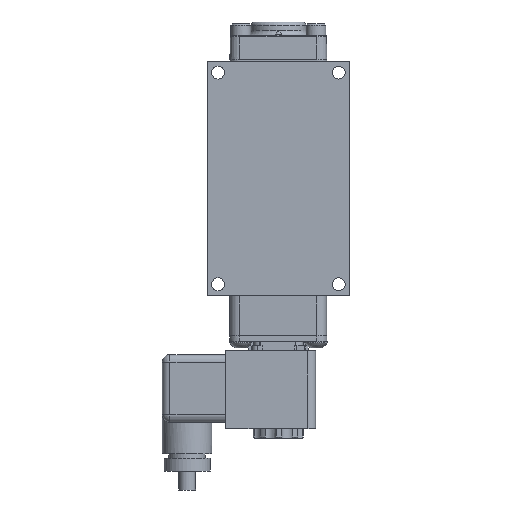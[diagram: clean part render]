
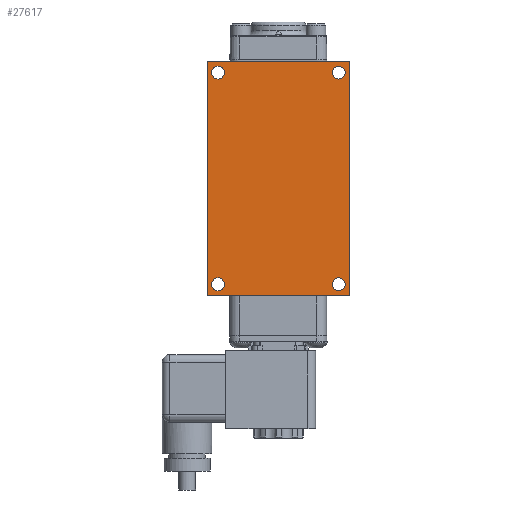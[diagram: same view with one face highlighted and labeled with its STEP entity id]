
A CAD part, front view. The second image highlights one B-rep face of the part: STEP entity #27617.
In plain terms, the highlighted planar face has unit normal (0, -1, 0).
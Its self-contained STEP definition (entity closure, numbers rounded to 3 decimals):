
#820=LINE('',#45484,#2605);
#840=LINE('',#45596,#2625);
#1058=LINE('',#46772,#2843);
#1300=LINE('',#48192,#3085);
#2605=VECTOR('',#34641,5.715);
#2625=VECTOR('',#34735,5.715);
#2843=VECTOR('',#35165,9.421);
#3085=VECTOR('',#35557,9.421);
#5171=PLANE('',#30079);
#5750=FACE_BOUND('',#8962,.T.);
#5751=FACE_BOUND('',#8963,.T.);
#5752=FACE_BOUND('',#8964,.T.);
#5753=FACE_BOUND('',#8965,.T.);
#7009=FACE_OUTER_BOUND('',#8961,.T.);
#8961=EDGE_LOOP('',(#22024,#22025,#22026,#22027));
#8962=EDGE_LOOP('',(#22028));
#8963=EDGE_LOOP('',(#22029));
#8964=EDGE_LOOP('',(#22030));
#8965=EDGE_LOOP('',(#22031));
#10587=CIRCLE('',#30050,0.258);
#10588=CIRCLE('',#30052,0.258);
#10589=CIRCLE('',#30054,0.258);
#10590=CIRCLE('',#30056,0.258);
#12171=VERTEX_POINT('',#45481);
#12172=VERTEX_POINT('',#45483);
#12226=VERTEX_POINT('',#45593);
#12227=VERTEX_POINT('',#45595);
#12759=VERTEX_POINT('',#48943);
#12760=VERTEX_POINT('',#48946);
#12761=VERTEX_POINT('',#48949);
#12762=VERTEX_POINT('',#48952);
#15208=EDGE_CURVE('',#12171,#12172,#820,.T.);
#15263=EDGE_CURVE('',#12226,#12227,#840,.T.);
#15571=EDGE_CURVE('',#12172,#12226,#1058,.T.);
#15907=EDGE_CURVE('',#12227,#12171,#1300,.T.);
#16024=EDGE_CURVE('',#12759,#12759,#10587,.T.);
#16025=EDGE_CURVE('',#12760,#12760,#10588,.T.);
#16026=EDGE_CURVE('',#12761,#12761,#10589,.T.);
#16027=EDGE_CURVE('',#12762,#12762,#10590,.T.);
#22024=ORIENTED_EDGE('',*,*,#15571,.F.);
#22025=ORIENTED_EDGE('',*,*,#15208,.F.);
#22026=ORIENTED_EDGE('',*,*,#15907,.F.);
#22027=ORIENTED_EDGE('',*,*,#15263,.F.);
#22028=ORIENTED_EDGE('',*,*,#16024,.T.);
#22029=ORIENTED_EDGE('',*,*,#16025,.T.);
#22030=ORIENTED_EDGE('',*,*,#16026,.T.);
#22031=ORIENTED_EDGE('',*,*,#16027,.T.);
#27617=ADVANCED_FACE('',(#7009,#5750,#5751,#5752,#5753),#5171,.F.);
#30050=AXIS2_PLACEMENT_3D('',#48944,#35856,#35857);
#30052=AXIS2_PLACEMENT_3D('',#48947,#35860,#35861);
#30054=AXIS2_PLACEMENT_3D('',#48950,#35864,#35865);
#30056=AXIS2_PLACEMENT_3D('',#48953,#35868,#35869);
#30079=AXIS2_PLACEMENT_3D('',#48984,#35914,#35915);
#34641=DIRECTION('',(-1.,0.,0.));
#34735=DIRECTION('',(1.,0.,0.));
#35165=DIRECTION('',(0.,0.,1.));
#35557=DIRECTION('',(0.,0.,-1.));
#35856=DIRECTION('center_axis',(0.,1.,0.));
#35857=DIRECTION('ref_axis',(-1.,0.,0.));
#35860=DIRECTION('center_axis',(0.,1.,0.));
#35861=DIRECTION('ref_axis',(-1.,0.,0.));
#35864=DIRECTION('center_axis',(0.,1.,0.));
#35865=DIRECTION('ref_axis',(-1.,0.,0.));
#35868=DIRECTION('center_axis',(0.,1.,0.));
#35869=DIRECTION('ref_axis',(-1.,0.,0.));
#35914=DIRECTION('center_axis',(0.,1.,0.));
#35915=DIRECTION('ref_axis',(0.,0.,1.));
#45481=CARTESIAN_POINT('',(2.858,-1.636,-4.71));
#45483=CARTESIAN_POINT('',(-2.858,-1.636,-4.71));
#45484=CARTESIAN_POINT('',(2.858,-1.636,-4.71));
#45593=CARTESIAN_POINT('',(-2.858,-1.636,4.71));
#45595=CARTESIAN_POINT('',(2.858,-1.636,4.71));
#45596=CARTESIAN_POINT('',(-2.858,-1.636,4.71));
#46772=CARTESIAN_POINT('',(-2.858,-1.636,-4.71));
#48192=CARTESIAN_POINT('',(2.858,-1.636,4.71));
#48943=CARTESIAN_POINT('',(-2.163,-1.636,-4.247));
#48944=CARTESIAN_POINT('Origin',(-2.421,-1.636,-4.247));
#48946=CARTESIAN_POINT('',(-2.163,-1.636,4.247));
#48947=CARTESIAN_POINT('Origin',(-2.421,-1.636,4.247));
#48949=CARTESIAN_POINT('',(2.678,-1.636,-4.247));
#48950=CARTESIAN_POINT('Origin',(2.421,-1.636,-4.247));
#48952=CARTESIAN_POINT('',(2.678,-1.636,4.247));
#48953=CARTESIAN_POINT('Origin',(2.421,-1.636,4.247));
#48984=CARTESIAN_POINT('Origin',(0.,-1.636,0.));
